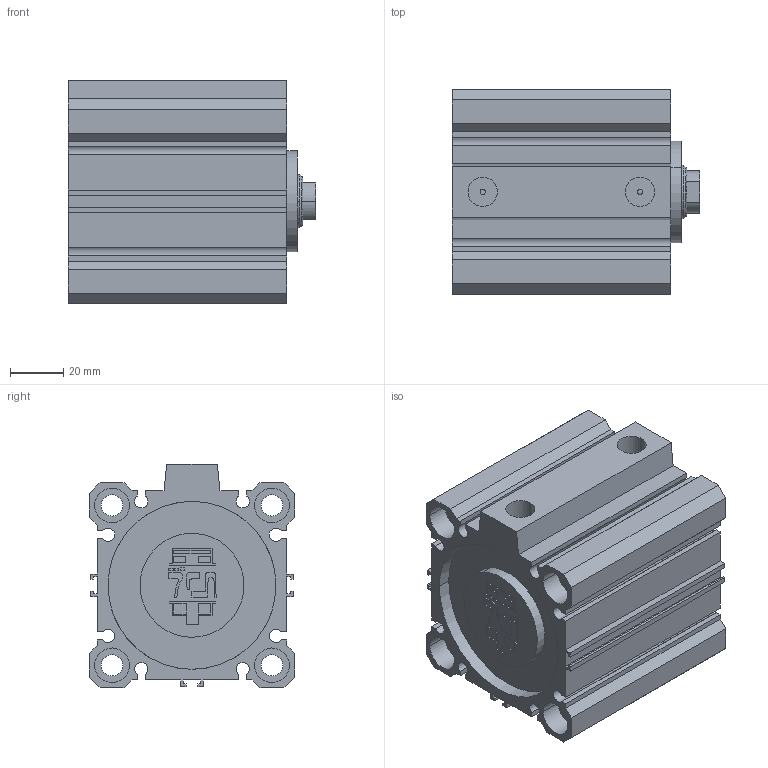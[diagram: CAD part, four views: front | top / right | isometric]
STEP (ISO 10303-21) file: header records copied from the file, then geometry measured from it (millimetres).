
FILE_DESCRIPTION(('CATIA V5 STEP Exchange'),'2;1');
FILE_NAME('D:\PDA\PDA-STP\PDA 63-20\PDA 63-20-40.stp','2016-02-02T10:57:30+00:00',('none'),('none'),'Version 5-6 Release 2012','CATIA V5 STEP AP203','none');
FILE_SCHEMA(('CONFIG_CONTROL_DESIGN'));
Length unit declared in the file: millimetre
Products named in the file (1): PDA 63-20-40-00
Assembly tree (2 placements, depth 2):
  PDA 63-20-40-00
    #58
    #7662
Bounding box: 93 x 77 x 84 mm (x, y, z)
Volume: 264917.4 mm3; surface area: 94829.5 mm2
Topology: 2 solids, 2 shells, 284 faces, 748 edges, 500 vertices
Faces by surface type: plane 200, cylinder 80, cone 2, torus 2
Entity records: 8182 total; most frequent: ORIENTED_EDGE 1496, CARTESIAN_POINT 1461, DIRECTION 1106, EDGE_CURVE 748, VECTOR 574, LINE 574, VERTEX_POINT 500, AXIS2_PLACEMENT_3D 351
